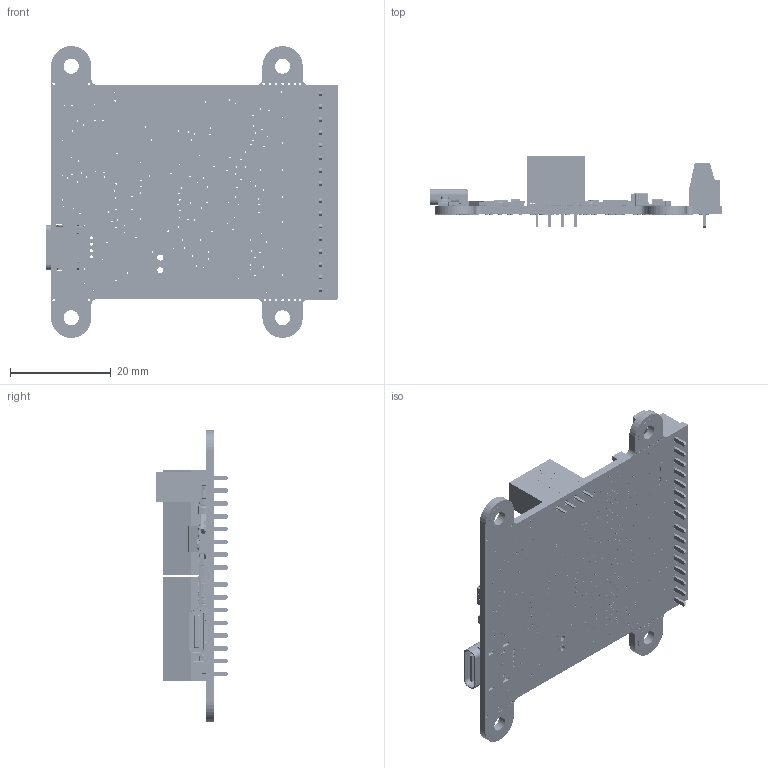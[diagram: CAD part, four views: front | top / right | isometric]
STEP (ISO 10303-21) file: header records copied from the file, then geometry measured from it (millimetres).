
FILE_DESCRIPTION (( 'STEP AP214' ), '1' );
FILE_NAME ('MAXIIO3C.blueprint.step', '2025-09-01T13:31:04', ( '' ), ( '' ), 'SwSTEP 2.0', 'SolidWorks 2008', '' );
FILE_SCHEMA (( 'AUTOMOTIVE_DESIGN' ));
Length unit declared in the file: millimetre
Products named in the file (52): C306; C402; C403; D4; C401; D10; IC100; D340; L51; P3; C53; C305; PCB; C52; C16; C18; C19; C27; C28; C301; IO4; R12; REG1; U1; SW1; R39; YLED; R342; reg400; sens1; R7; R36; RELAY3; T2; R10; USB1; R341; MAXIIO3C.blueprint; T9; R38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
Assembly tree (139 placements, depth 2):
  MAXIIO3C.blueprint
    R38  x8
    C28  x8
    R36  x8
    C305  x4
    D340  x8
    YLED
    D10  x8
    C301  x10
    R341  x10
    C27  x8
    D4  x2
    R1
    R29  x4
    C306  x4
    P3  x2
    PCB
    C18
    R342  x8
    C402
    U300  x2
    C401  x4
    C16
    R103  x3
    T9
    IC100
    SW1
    USB1
    R10  x2
    T2  x2
    C403  x2
    sens1
    R2
    R35
    C53
    C19
    IO4
    R39  x2
    alim50
    U2
    R13  x2
    C52
    R8
    RELAY3
    L51
    REG1
    RELAY1
    reg400
    U1
    R12
    R7
  PVSS
Bounding box: 58 x 14.4 x 58 mm (x, y, z)
Volume: 7250.5 mm3; surface area: 11405.4 mm2
Topology: 166 solids, 166 shells, 18588 faces, 48395 edges, 31298 vertices
Faces by surface type: plane 11702, cylinder 4625, bspline 1810, sphere 432, cone 12, torus 7
Entity records: 561464 total; most frequent: CARTESIAN_POINT 135257, ORIENTED_EDGE 63878, DIRECTION 58688, EDGE_CURVE 31939, VECTOR 23024, LINE 23024, VERTEX_POINT 21095, AXIS2_PLACEMENT_3D 17832
